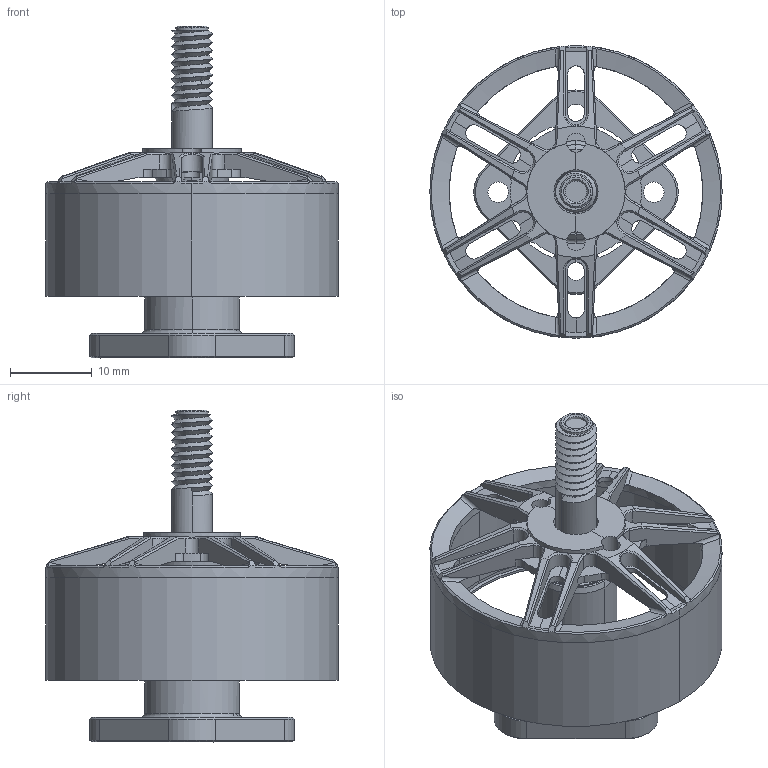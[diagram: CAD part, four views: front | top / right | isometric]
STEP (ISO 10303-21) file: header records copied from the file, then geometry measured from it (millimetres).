
FILE_DESCRIPTION((''),'2;1');
FILE_NAME('MAD-XC3000-T2_ASM','2024-07-12T09:49:18',('Administrator'),(''),'CREO PARAMETRIC BY PTC INC, 2020053','CREO PARAMETRIC BY PTC INC, 2020053','');
FILE_SCHEMA(('CONFIG_CONTROL_DESIGN'));
Length unit declared in the file: millimetre
Products named in the file (13): XC3000-T2-HG_AF0_1_1; XC3000-JK_AF0_1_1; XC3000-ZX_AF0_11_1; XC3000-QG_AF0_21_1; EZO-684-ZZ_AF0_1_1; EZO-684-ZZ_AF1_1_1; D4-D6-0_5-DIANPIAN_AF0_1_1; CHANGGUI-M4-KAHUANG_AF0_1_1; 3010-SZGB_AF0_1_1; NLJ-CT-M3X5-P05_AF0_1_1; XC3000-T2_ASM_2_ASM_1_ASM; MAD-XC3000-T2_ASM_1_ASM; MAD-XC3000-T2_ASM
Assembly tree (12 placements, depth 4):
  MAD-XC3000-T2_ASM
    MAD-XC3000-T2_ASM_1_ASM
      XC3000-T2_ASM_2_ASM_1_ASM
        XC3000-T2-HG_AF0_1_1
        XC3000-JK_AF0_1_1
        XC3000-ZX_AF0_11_1
        XC3000-QG_AF0_21_1
        EZO-684-ZZ_AF0_1_1
        EZO-684-ZZ_AF1_1_1
        D4-D6-0_5-DIANPIAN_AF0_1_1
        CHANGGUI-M4-KAHUANG_AF0_1_1
        3010-SZGB_AF0_1_1
        NLJ-CT-M3X5-P05_AF0_1_1
Bounding box: 35.7 x 35.7 x 40.55 mm (x, y, z)
Volume: 4845.7 mm3; surface area: 9069.5 mm2
Topology: 10 solids, 11 shells, 1591 faces, 4589 edges, 3048 vertices
Faces by surface type: plane 1118, cylinder 229, cone 119, bspline 61, torus 44, sphere 20
Entity records: 57409 total; most frequent: CARTESIAN_POINT 15515, ORIENTED_EDGE 9130, DIRECTION 8079, EDGE_CURVE 4565, VECTOR 3289, LINE 3289, VERTEX_POINT 3046, AXIS2_PLACEMENT_3D 2395
